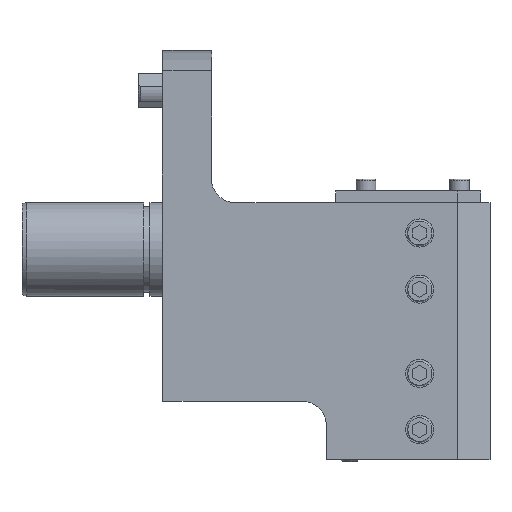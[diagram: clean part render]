
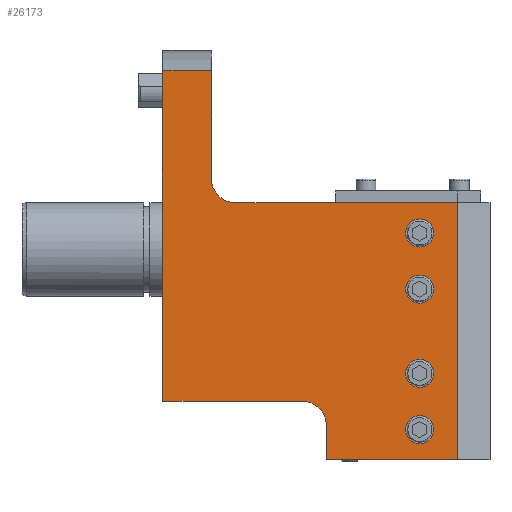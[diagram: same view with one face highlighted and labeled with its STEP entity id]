
A CAD part, front view. The second image highlights one B-rep face of the part: STEP entity #26173.
In plain terms, the highlighted planar face has unit normal (0, -1, 0).
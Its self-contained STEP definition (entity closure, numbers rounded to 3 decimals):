
#12030=CIRCLE('',#25258,10.);
#12031=CIRCLE('',#25259,10.);
#12032=CIRCLE('',#25260,6.);
#12033=CIRCLE('',#25261,6.);
#12034=CIRCLE('',#25262,6.);
#12035=CIRCLE('',#25263,6.);
#12211=ORIENTED_EDGE('',*,*,#15951,.F.);
#12212=ORIENTED_EDGE('',*,*,#15952,.F.);
#12213=ORIENTED_EDGE('',*,*,#15953,.F.);
#12214=ORIENTED_EDGE('',*,*,#15954,.T.);
#12215=ORIENTED_EDGE('',*,*,#15955,.T.);
#12216=ORIENTED_EDGE('',*,*,#15956,.T.);
#12217=ORIENTED_EDGE('',*,*,#15957,.F.);
#12218=ORIENTED_EDGE('',*,*,#15958,.F.);
#12219=ORIENTED_EDGE('',*,*,#15959,.T.);
#12220=ORIENTED_EDGE('',*,*,#15960,.F.);
#12221=ORIENTED_EDGE('',*,*,#15961,.T.);
#12222=ORIENTED_EDGE('',*,*,#15962,.F.);
#12223=ORIENTED_EDGE('',*,*,#15941,.F.);
#12224=ORIENTED_EDGE('',*,*,#15963,.T.);
#12225=ORIENTED_EDGE('',*,*,#15964,.F.);
#12226=ORIENTED_EDGE('',*,*,#15965,.F.);
#12227=ORIENTED_EDGE('',*,*,#15966,.F.);
#12228=ORIENTED_EDGE('',*,*,#15967,.F.);
#14124=VECTOR('',#18174,1.);
#14134=VECTOR('',#18186,1.);
#14135=VECTOR('',#18187,1.);
#14136=VECTOR('',#18188,1.);
#14137=VECTOR('',#18189,1.);
#14138=VECTOR('',#18190,1.);
#14139=VECTOR('',#18191,1.);
#14140=VECTOR('',#18192,1.);
#14141=VECTOR('',#18193,1.);
#14142=VECTOR('',#18196,1.);
#14143=VECTOR('',#18197,1.);
#14144=VECTOR('',#18198,1.);
#14690=LINE('',#20009,#14124);
#14700=LINE('',#20029,#14134);
#14701=LINE('',#20031,#14135);
#14702=LINE('',#20033,#14136);
#14703=LINE('',#20035,#14137);
#14704=LINE('',#20037,#14138);
#14705=LINE('',#20039,#14139);
#14706=LINE('',#20041,#14140);
#14707=LINE('',#20043,#14141);
#14708=LINE('',#20047,#14142);
#14709=LINE('',#20049,#14143);
#14710=LINE('',#20050,#14144);
#15255=VERTEX_POINT('',#20007);
#15256=VERTEX_POINT('',#20008);
#15264=VERTEX_POINT('',#20027);
#15265=VERTEX_POINT('',#20028);
#15266=VERTEX_POINT('',#20030);
#15267=VERTEX_POINT('',#20032);
#15268=VERTEX_POINT('',#20034);
#15269=VERTEX_POINT('',#20036);
#15270=VERTEX_POINT('',#20038);
#15271=VERTEX_POINT('',#20040);
#15272=VERTEX_POINT('',#20042);
#15273=VERTEX_POINT('',#20044);
#15274=VERTEX_POINT('',#20046);
#15275=VERTEX_POINT('',#20048);
#15276=VERTEX_POINT('',#20052);
#15277=VERTEX_POINT('',#20054);
#15278=VERTEX_POINT('',#20056);
#15279=VERTEX_POINT('',#20058);
#15941=EDGE_CURVE('',#15255,#15256,#14690,.T.);
#15951=EDGE_CURVE('',#15264,#15265,#14700,.T.);
#15952=EDGE_CURVE('',#15266,#15264,#14701,.T.);
#15953=EDGE_CURVE('',#15267,#15266,#14702,.T.);
#15954=EDGE_CURVE('',#15267,#15268,#14703,.T.);
#15955=EDGE_CURVE('',#15268,#15269,#14704,.T.);
#15956=EDGE_CURVE('',#15269,#15270,#14705,.T.);
#15957=EDGE_CURVE('',#15271,#15270,#14706,.T.);
#15958=EDGE_CURVE('',#15272,#15271,#14707,.T.);
#15959=EDGE_CURVE('',#15272,#15273,#12030,.T.);
#15960=EDGE_CURVE('',#15274,#15273,#14708,.T.);
#15961=EDGE_CURVE('',#15274,#15275,#14709,.T.);
#15962=EDGE_CURVE('',#15256,#15275,#14710,.T.);
#15963=EDGE_CURVE('',#15255,#15265,#12031,.T.);
#15964=EDGE_CURVE('',#15276,#15276,#12032,.T.);
#15965=EDGE_CURVE('',#15277,#15277,#12033,.T.);
#15966=EDGE_CURVE('',#15278,#15278,#12034,.T.);
#15967=EDGE_CURVE('',#15279,#15279,#12035,.T.);
#16901=EDGE_LOOP('',(#12211,#12212,#12213,#12214,#12215,#12216,#12217,#12218,
#12219,#12220,#12221,#12222,#12223,#12224));
#16902=EDGE_LOOP('',(#12225));
#16903=EDGE_LOOP('',(#12226));
#16904=EDGE_LOOP('',(#12227));
#16905=EDGE_LOOP('',(#12228));
#17531=FACE_BOUND('',#16901,.T.);
#17532=FACE_BOUND('',#16902,.T.);
#17533=FACE_BOUND('',#16903,.T.);
#17534=FACE_BOUND('',#16904,.T.);
#17535=FACE_BOUND('',#16905,.T.);
#18174=DIRECTION('',(95.144,0.,0.));
#18184=DIRECTION('',(0.,-1.,0.));
#18185=DIRECTION('',(-1.,0.,0.));
#18186=DIRECTION('',(0.,0.,-46.281));
#18187=DIRECTION('',(20.8,0.,0.));
#18188=DIRECTION('',(0.,0.,43.209));
#18189=DIRECTION('',(-0.2,0.,0.));
#18190=DIRECTION('',(0.,0.,-66.144));
#18191=DIRECTION('',(0.2,0.,0.));
#18192=DIRECTION('',(0.,0.,31.928));
#18193=DIRECTION('',(-59.8,0.,0.));
#18194=DIRECTION('',(0.,1.,0.));
#18195=DIRECTION('',(0.,0.,-10.));
#18196=DIRECTION('',(0.,0.,15.));
#18197=DIRECTION('',(56.144,0.,0.));
#18198=DIRECTION('',(0.,0.,-110.));
#18199=DIRECTION('',(0.,1.,0.));
#18200=DIRECTION('',(0.,0.,-10.));
#18201=DIRECTION('',(0.,-1.,0.));
#18202=DIRECTION('',(-6.,0.,0.));
#18203=DIRECTION('',(0.,-1.,0.));
#18204=DIRECTION('',(-6.,0.,0.));
#18205=DIRECTION('',(0.,-1.,0.));
#18206=DIRECTION('',(-6.,0.,0.));
#18207=DIRECTION('',(0.,-1.,0.));
#18208=DIRECTION('',(-6.,0.,0.));
#20007=CARTESIAN_POINT('',(31.,-37.5,20.));
#20008=CARTESIAN_POINT('',(126.144,-37.5,20.));
#20009=CARTESIAN_POINT('',(31.,-37.5,20.));
#20026=CARTESIAN_POINT('',(21.,-37.5,76.281));
#20027=CARTESIAN_POINT('',(21.,-37.5,76.281));
#20028=CARTESIAN_POINT('',(21.,-37.5,30.));
#20029=CARTESIAN_POINT('',(21.,-37.5,76.281));
#20030=CARTESIAN_POINT('',(0.2,-37.5,76.281));
#20031=CARTESIAN_POINT('',(0.2,-37.5,76.281));
#20032=CARTESIAN_POINT('',(0.2,-37.5,33.072));
#20033=CARTESIAN_POINT('',(0.2,-37.5,33.072));
#20034=CARTESIAN_POINT('',(0.,-37.5,33.072));
#20035=CARTESIAN_POINT('',(0.2,-37.5,33.072));
#20036=CARTESIAN_POINT('',(0.,-37.5,-33.072));
#20037=CARTESIAN_POINT('',(0.,-37.5,33.072));
#20038=CARTESIAN_POINT('',(0.2,-37.5,-33.072));
#20039=CARTESIAN_POINT('',(0.,-37.5,-33.072));
#20040=CARTESIAN_POINT('',(0.2,-37.5,-65.));
#20041=CARTESIAN_POINT('',(0.2,-37.5,-65.));
#20042=CARTESIAN_POINT('',(60.,-37.5,-65.));
#20043=CARTESIAN_POINT('',(60.,-37.5,-65.));
#20044=CARTESIAN_POINT('',(70.,-37.5,-75.));
#20045=CARTESIAN_POINT('',(60.,-37.5,-75.));
#20046=CARTESIAN_POINT('',(70.,-37.5,-90.));
#20047=CARTESIAN_POINT('',(70.,-37.5,-90.));
#20048=CARTESIAN_POINT('',(126.144,-37.5,-90.));
#20049=CARTESIAN_POINT('',(70.,-37.5,-90.));
#20050=CARTESIAN_POINT('',(126.144,-37.5,20.));
#20051=CARTESIAN_POINT('',(31.,-37.5,30.));
#20052=CARTESIAN_POINT('',(104.,-37.5,-77.));
#20053=CARTESIAN_POINT('',(110.,-37.5,-77.));
#20054=CARTESIAN_POINT('',(104.,-37.5,-53.));
#20055=CARTESIAN_POINT('',(110.,-37.5,-53.));
#20056=CARTESIAN_POINT('',(104.,-37.5,-17.));
#20057=CARTESIAN_POINT('',(110.,-37.5,-17.));
#20058=CARTESIAN_POINT('',(104.,-37.5,7.));
#20059=CARTESIAN_POINT('',(110.,-37.5,7.));
#25257=AXIS2_PLACEMENT_3D('',#20026,#18184,#18185);
#25258=AXIS2_PLACEMENT_3D('',#20045,#18194,#18195);
#25259=AXIS2_PLACEMENT_3D('',#20051,#18199,#18200);
#25260=AXIS2_PLACEMENT_3D('',#20053,#18201,#18202);
#25261=AXIS2_PLACEMENT_3D('',#20055,#18203,#18204);
#25262=AXIS2_PLACEMENT_3D('',#20057,#18205,#18206);
#25263=AXIS2_PLACEMENT_3D('',#20059,#18207,#18208);
#25889=PLANE('',#25257);
#26173=ADVANCED_FACE('',(#17531,#17532,#17533,#17534,#17535),#25889,.T.);
